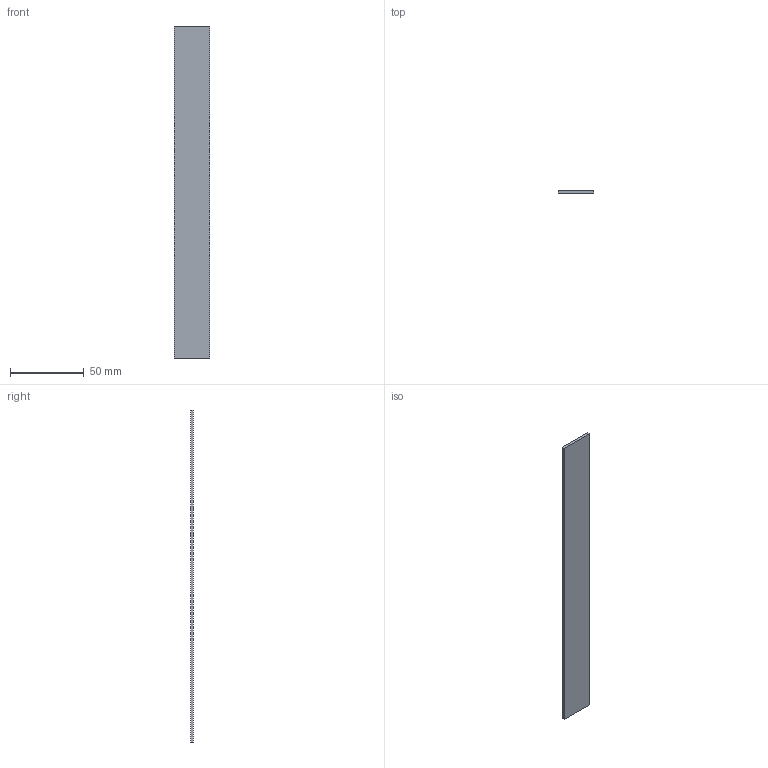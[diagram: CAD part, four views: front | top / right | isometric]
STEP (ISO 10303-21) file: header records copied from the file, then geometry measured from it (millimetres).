
FILE_DESCRIPTION (( 'STEP AP214' ), '1' );
FILE_NAME ('LSNY-00-225-X-X-24V-DIFFUSER.STEP', '2022-05-11T09:47:51', ( '' ), ( '' ), 'SwSTEP 2.0', 'SolidWorks 2021', '' );
FILE_SCHEMA (( 'AUTOMOTIVE_DESIGN' ));
Length unit declared in the file: millimetre
Products named in the file (1): LSNY-00-225-X-X-24V-DIFFUSER
Bounding box: 24 x 1.9 x 225 mm (x, y, z)
Volume: 10260 mm3; surface area: 11746.2 mm2
Topology: 1 solids, 1 shells, 6 faces, 12 edges, 8 vertices
Faces by surface type: plane 6
Entity records: 190 total; most frequent: CARTESIAN_POINT 27, DIRECTION 26, ORIENTED_EDGE 24, EDGE_CURVE 12, VECTOR 12, LINE 12, VERTEX_POINT 8, AXIS2_PLACEMENT_3D 7
